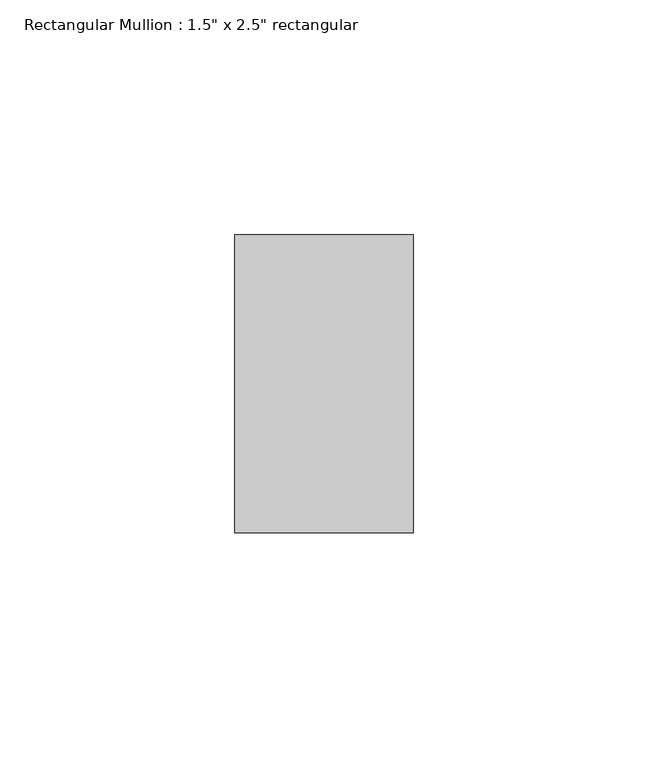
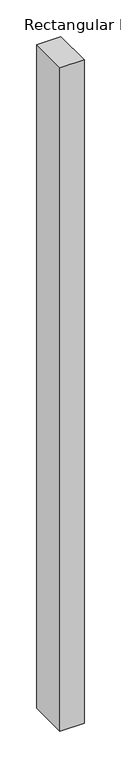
"""IFC4 building model written with IfcOpenShell, lengths in millimetres: member geometry."""

from ifc_helpers import new_model, si_unit, frame, origin, place, context, project, spatial, polyline, outline, extrude, source, transform, mapped, element, save


def member_30d5bf22(model_context):
    return source(origin(), model_context, "Body", "SweptSolid", [
        extrude(outline(polyline([(19.05, 31.75), (19.05, -31.75), (-19.05, -31.75), (-19.05, 31.75), (19.05, 31.75)])), frame((0.0, 0.0, -1104.1767085), z_axis=(0.0, 0.0, 1.0), x_axis=(1.0, 0.0, 0.0)), (0.0, 0.0, 1.0), 1104.1767085),
    ])


if __name__ == "__main__":
    model = new_model("IFC4")
    model_context = context("Model", 3, world=origin())
    ifc_project = project(units=[si_unit("LENGTHUNIT", "METRE", prefix="MILLI")], contexts=[model_context])
    site = spatial("IfcSite", under=ifc_project)
    building = spatial("IfcBuilding", under=site)
    placement = place(None, origin())
    member_shape = member_30d5bf22(model_context)
    element("IfcMember", 1, ObjectType="Rectangular Mullion : 1.5\" x 2.5\" rectangular", at=placement, inside=building, context=model_context, shape_type="MappedRepresentation", body=[
        mapped(member_shape, transform((0.0, 0.0, 0.0), x_axis=(1.0, 0.0, 0.0), y_axis=(0.0, 1.0, 0.0), z_axis=(0.0, 0.0, 1.0))),
    ])
    save(model, "model.ifc")
